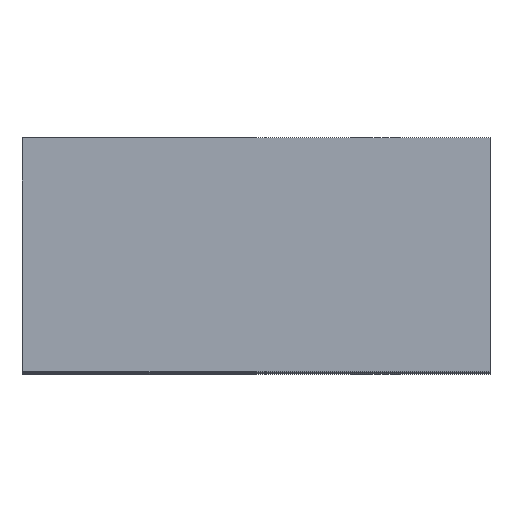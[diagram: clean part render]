
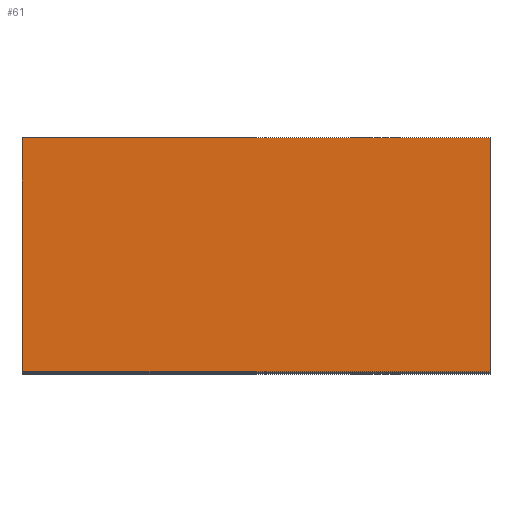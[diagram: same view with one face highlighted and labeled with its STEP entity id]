
A CAD part, top view. The second image highlights one B-rep face of the part: STEP entity #61.
In plain terms, the highlighted planar face has unit normal (0, 0, 1).
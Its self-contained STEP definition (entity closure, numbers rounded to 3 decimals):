
#22 = ORIENTED_EDGE ( 'NONE', *, *, #333, .T. ) ;
#61 = ADVANCED_FACE ( 'NONE', ( #1135 ), #1222, .F. ) ;
#108 = VERTEX_POINT ( 'NONE', #753 ) ;
#130 = CARTESIAN_POINT ( 'NONE',  ( 30., 0., 0. ) ) ;
#156 = LINE ( 'NONE', #293, #363 ) ;
#240 = EDGE_CURVE ( 'NONE', #108, #832, #1169, .T. ) ;
#253 = CARTESIAN_POINT ( 'NONE',  ( 30., 0., 0. ) ) ;
#293 = CARTESIAN_POINT ( 'NONE',  ( -30., 0., 0. ) ) ;
#333 = EDGE_CURVE ( 'NONE', #832, #841, #156, .T. ) ;
#363 = VECTOR ( 'NONE', #1262, 1000. ) ;
#409 = ORIENTED_EDGE ( 'NONE', *, *, #240, .T. ) ;
#462 = CARTESIAN_POINT ( 'NONE',  ( -30., 0., 0. ) ) ;
#487 = VERTEX_POINT ( 'NONE', #130 ) ;
#539 = AXIS2_PLACEMENT_3D ( 'NONE', #253, #1128, #566 ) ;
#566 = DIRECTION ( 'NONE',  ( -1., 0., 0. ) ) ;
#569 = CARTESIAN_POINT ( 'NONE',  ( -30., 30., 0. ) ) ;
#578 = CARTESIAN_POINT ( 'NONE',  ( 30., 30., 0. ) ) ;
#753 = CARTESIAN_POINT ( 'NONE',  ( 30., 30., 0. ) ) ;
#759 = DIRECTION ( 'NONE',  ( -1., 0., 0. ) ) ;
#776 = DIRECTION ( 'NONE',  ( -1., 0., 0. ) ) ;
#799 = VECTOR ( 'NONE', #1152, 1000. ) ;
#826 = ORIENTED_EDGE ( 'NONE', *, *, #850, .F. ) ;
#832 = VERTEX_POINT ( 'NONE', #569 ) ;
#841 = VERTEX_POINT ( 'NONE', #462 ) ;
#846 = EDGE_CURVE ( 'NONE', #487, #841, #988, .T. ) ;
#850 = EDGE_CURVE ( 'NONE', #108, #487, #882, .T. ) ;
#863 = CARTESIAN_POINT ( 'NONE',  ( 30., 0., 0. ) ) ;
#882 = LINE ( 'NONE', #863, #799 ) ;
#941 = VECTOR ( 'NONE', #776, 1000. ) ;
#954 = CARTESIAN_POINT ( 'NONE',  ( 30., 0., 0. ) ) ;
#988 = LINE ( 'NONE', #954, #941 ) ;
#1034 = EDGE_LOOP ( 'NONE', ( #22, #1137, #826, #409 ) ) ;
#1063 = VECTOR ( 'NONE', #759, 1000. ) ;
#1128 = DIRECTION ( 'NONE',  ( 0., 0., -1. ) ) ;
#1135 = FACE_OUTER_BOUND ( 'NONE', #1034, .T. ) ;
#1137 = ORIENTED_EDGE ( 'NONE', *, *, #846, .F. ) ;
#1152 = DIRECTION ( 'NONE',  ( 0., -1., 0. ) ) ;
#1169 = LINE ( 'NONE', #578, #1063 ) ;
#1222 = PLANE ( 'NONE',  #539 ) ;
#1262 = DIRECTION ( 'NONE',  ( 0., -1., 0. ) ) ;
